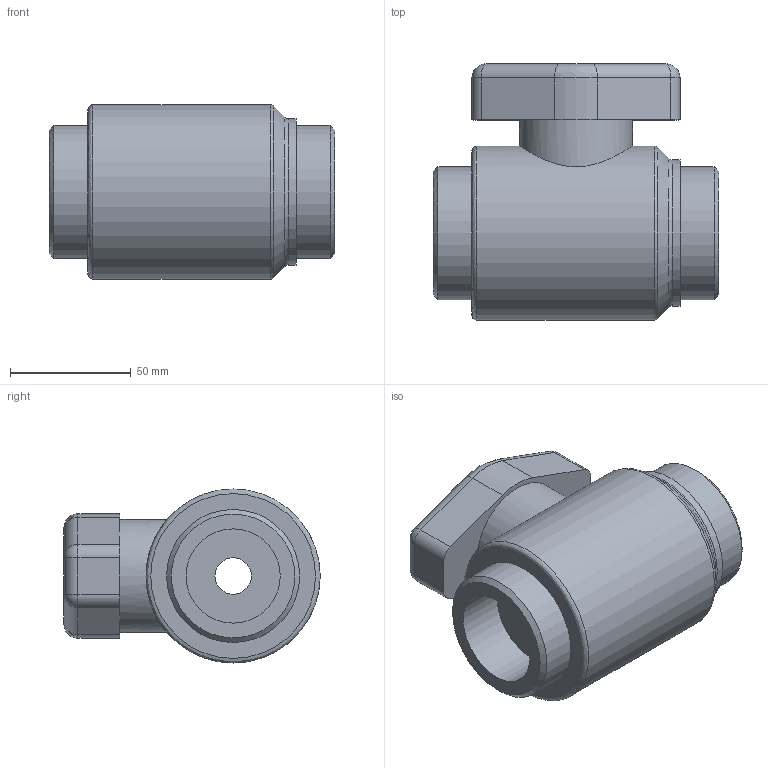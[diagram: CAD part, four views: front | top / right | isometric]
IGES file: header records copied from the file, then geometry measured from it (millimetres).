
Global section: file name: 0370300013_037030F013.ipt; native system: Autodesk Inventor 2015; preprocessor: unknown; author: KIM; date: 20190627.094220; units: millimetre
Bounding box: 118 x 106 x 72 mm (x, y, z)
Volume: 453059.9 mm3; surface area: 49703.4 mm2
Topology: 1 solids, 1 shells, 46 faces, 106 edges, 67 vertices
Faces by surface type: cylinder 17, plane 14, revolution 8, sphere 4, cone 3
Full cylindrical faces by diameter (mm): 46.742 x1, 55 x2, 60.5 x1, 72 x1
